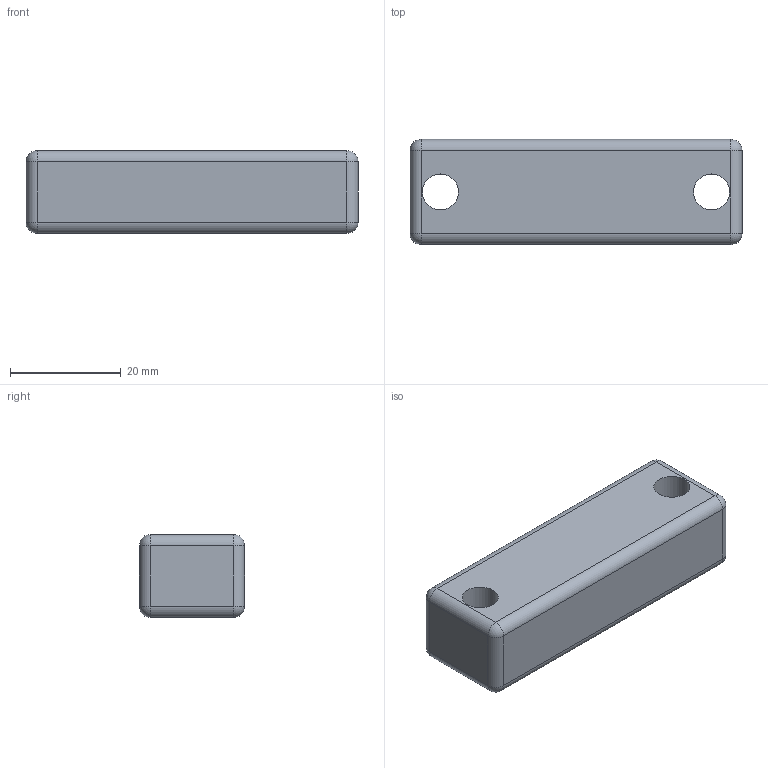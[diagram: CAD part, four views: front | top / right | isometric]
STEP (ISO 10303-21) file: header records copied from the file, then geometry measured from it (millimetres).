
FILE_DESCRIPTION(/* description */ (''),/* implementation_level */ '2;1');
FILE_NAME(/* name */ 'Z:\Flow\Inventor\Spritzenpumpe\Spritzenpumpe Stempel.stp',/* time_stamp */ '2018-09-10T15:59:04+02:00',/* author */ ('JN'),/* organization */ (''),/* preprocessor_version */ 'ST-DEVELOPER v16.13',/* originating_system */ 'Autodesk Inventor 2018',/* authorisation */ '');
FILE_SCHEMA (('AUTOMOTIVE_DESIGN { 1 0 10303 214 3 1 1 }'));
Length unit declared in the file: millimetre
Products named in the file (1): Spritzenpumpe Stempel
Bounding box: 60 x 19 x 15 mm (x, y, z)
Volume: 15792.5 mm3; surface area: 4802.6 mm2
Topology: 1 solids, 1 shells, 28 faces, 54 edges, 28 vertices
Faces by surface type: cylinder 14, sphere 8, plane 6
Full cylindrical faces by diameter (mm): 6.5 x2
Entity records: 731 total; most frequent: DIRECTION 138, CARTESIAN_POINT 109, ORIENTED_EDGE 104, AXIS2_PLACEMENT_3D 57, EDGE_CURVE 52, EDGE_LOOP 34, FACE_OUTER_BOUND 28, CIRCLE 28
